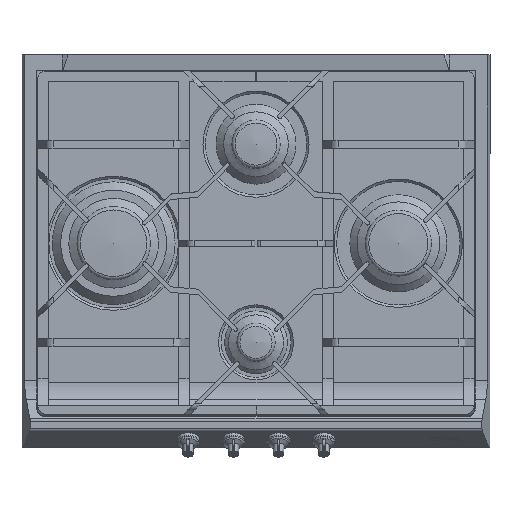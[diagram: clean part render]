
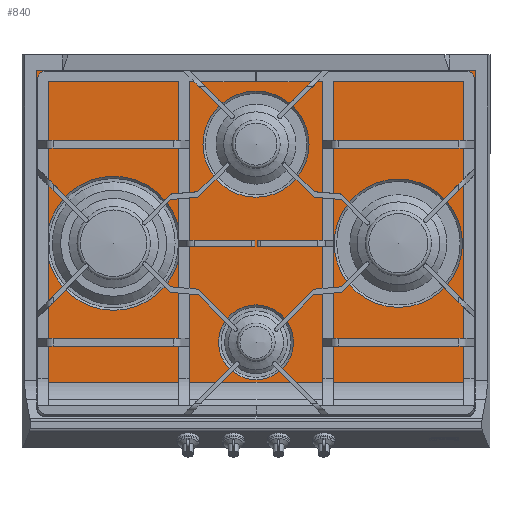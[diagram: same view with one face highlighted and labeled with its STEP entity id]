
A CAD part, top view. The second image highlights one B-rep face of the part: STEP entity #840.
In plain terms, the highlighted planar face has unit normal (0, 0, 1).
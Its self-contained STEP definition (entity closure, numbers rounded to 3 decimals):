
#601=FACE_BOUND('',#2377,.T.);
#602=FACE_BOUND('',#2378,.T.);
#603=FACE_BOUND('',#2379,.T.);
#604=FACE_BOUND('',#2380,.T.);
#605=FACE_BOUND('',#2381,.T.);
#840=ADVANCED_FACE('',(#601,#602,#603,#604,#605),#1440,.F.);
#1440=PLANE('',#10741);
#2377=EDGE_LOOP('',(#3584));
#2378=EDGE_LOOP('',(#3585));
#2379=EDGE_LOOP('',(#3586));
#2380=EDGE_LOOP('',(#3587));
#2381=EDGE_LOOP('',(#3588,#3589,#3590,#3591));
#3058=CIRCLE('',#10737,82.25);
#3059=CIRCLE('',#10738,48.);
#3060=CIRCLE('',#10739,68.);
#3061=CIRCLE('',#10740,86.);
#3584=ORIENTED_EDGE('',*,*,#7239,.F.);
#3585=ORIENTED_EDGE('',*,*,#7240,.F.);
#3586=ORIENTED_EDGE('',*,*,#7241,.F.);
#3587=ORIENTED_EDGE('',*,*,#7242,.F.);
#3588=ORIENTED_EDGE('',*,*,#7243,.F.);
#3589=ORIENTED_EDGE('',*,*,#7238,.F.);
#3590=ORIENTED_EDGE('',*,*,#7244,.F.);
#3591=ORIENTED_EDGE('',*,*,#7245,.T.);
#6243=VERTEX_POINT('',#14854);
#6244=VERTEX_POINT('',#14856);
#6245=VERTEX_POINT('',#14860);
#6246=VERTEX_POINT('',#14862);
#6247=VERTEX_POINT('',#14864);
#6248=VERTEX_POINT('',#14866);
#6249=VERTEX_POINT('',#14868);
#6250=VERTEX_POINT('',#14870);
#7238=EDGE_CURVE('',#6244,#6243,#8646,.T.);
#7239=EDGE_CURVE('',#6245,#6245,#3058,.T.);
#7240=EDGE_CURVE('',#6246,#6246,#3059,.T.);
#7241=EDGE_CURVE('',#6247,#6247,#3060,.T.);
#7242=EDGE_CURVE('',#6248,#6248,#3061,.T.);
#7243=EDGE_CURVE('',#6243,#6249,#8647,.T.);
#7244=EDGE_CURVE('',#6250,#6244,#8648,.T.);
#7245=EDGE_CURVE('',#6250,#6249,#8649,.T.);
#8646=LINE('',#14857,#9702);
#8647=LINE('',#14867,#9703);
#8648=LINE('',#14869,#9704);
#8649=LINE('',#14871,#9705);
#9702=VECTOR('',#11862,1.);
#9703=VECTOR('',#11873,1.);
#9704=VECTOR('',#11874,1.);
#9705=VECTOR('',#11875,1.);
#10737=AXIS2_PLACEMENT_3D('',#14859,#11865,#11866);
#10738=AXIS2_PLACEMENT_3D('',#14861,#11867,#11868);
#10739=AXIS2_PLACEMENT_3D('',#14863,#11869,#11870);
#10740=AXIS2_PLACEMENT_3D('',#14865,#11871,#11872);
#10741=AXIS2_PLACEMENT_3D('',#14872,#11876,#11877);
#11862=DIRECTION('',(-1.,0.,0.));
#11865=DIRECTION('',(0.,0.,1.));
#11866=DIRECTION('',(0.,1.,0.));
#11867=DIRECTION('',(0.,0.,1.));
#11868=DIRECTION('',(0.,1.,0.));
#11869=DIRECTION('',(0.,0.,1.));
#11870=DIRECTION('',(0.,1.,0.));
#11871=DIRECTION('',(0.,0.,1.));
#11872=DIRECTION('',(0.,1.,0.));
#11873=DIRECTION('',(0.,1.,0.));
#11874=DIRECTION('',(0.,-1.,0.));
#11875=DIRECTION('',(-1.,0.,0.));
#11876=DIRECTION('',(0.,0.,-1.));
#11877=DIRECTION('',(0.,1.,0.));
#14854=CARTESIAN_POINT('',(-616.823,-242.856,-4.364));
#14856=CARTESIAN_POINT('',(-54.823,-242.856,-4.364));
#14857=CARTESIAN_POINT('',(-335.823,-242.856,-4.364));
#14859=CARTESIAN_POINT('',(-153.323,-64.5,-4.364));
#14860=CARTESIAN_POINT('',(-153.323,17.75,-4.364));
#14861=CARTESIAN_POINT('',(-335.823,-191.5,-4.364));
#14862=CARTESIAN_POINT('',(-335.823,-143.5,-4.364));
#14863=CARTESIAN_POINT('',(-335.823,62.5,-4.364));
#14864=CARTESIAN_POINT('',(-335.823,130.5,-4.364));
#14865=CARTESIAN_POINT('',(-518.323,-64.5,-4.364));
#14866=CARTESIAN_POINT('',(-518.323,21.5,-4.364));
#14867=CARTESIAN_POINT('',(-616.823,-242.856,-4.364));
#14868=CARTESIAN_POINT('',(-616.823,157.,-4.364));
#14869=CARTESIAN_POINT('',(-54.823,-242.856,-4.364));
#14870=CARTESIAN_POINT('',(-54.823,157.,-4.364));
#14871=CARTESIAN_POINT('',(-335.823,157.,-4.364));
#14872=CARTESIAN_POINT('',(-335.823,-242.856,-4.364));
